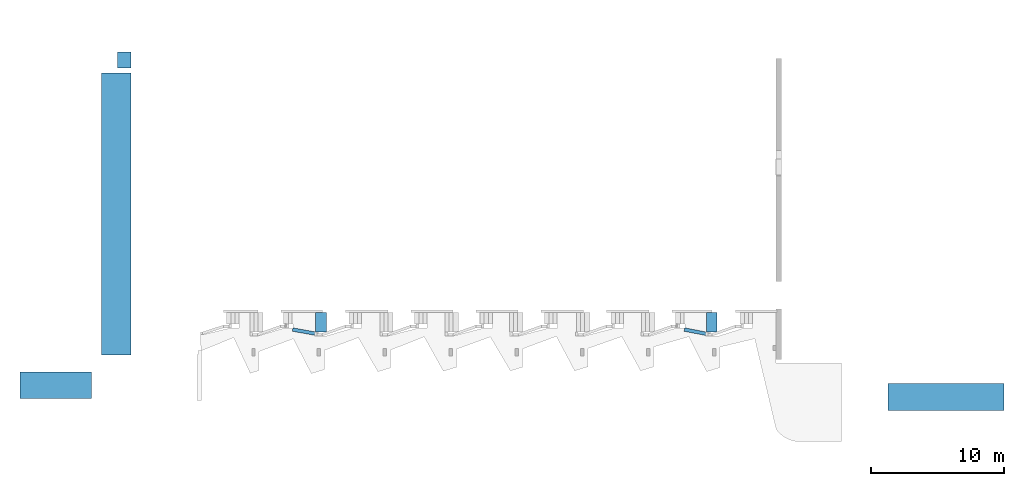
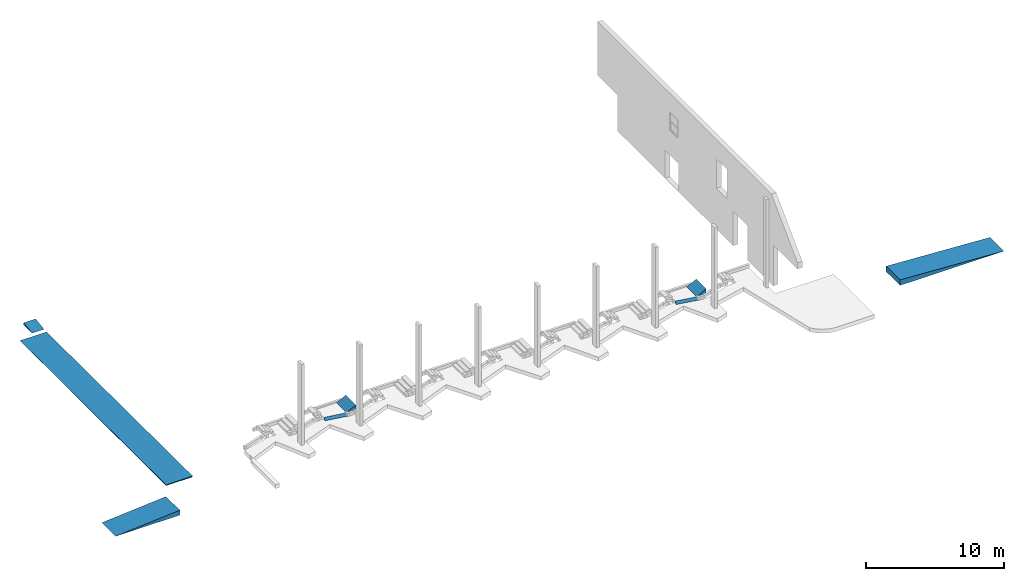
# One storey, part 3 of 8: 8 ramp flights, 8 elements without a shape of their own.
"""IFC4 building model written with IfcOpenShell, lengths in metres."""

from ifc_helpers import new_model, entity, si_unit, converted_unit, derived_unit, direction, frame, origin, place, context, subcontext, project, spatial, indexed_curve, outline, extrude, material, element, aggregate, save


model = new_model("IFC4")

# Units and contexts
model_context = context("Model", 3, precision=1e-05, world=origin(), true_north=direction((6.123031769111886e-17, 1.0)))
body_context = subcontext(model_context, "Body", "Model", "MODEL_VIEW")
ifc_project = project(units=[si_unit("LENGTHUNIT", "METRE"), si_unit("AREAUNIT", "SQUARE_METRE"), si_unit("VOLUMEUNIT", "CUBIC_METRE"), converted_unit("PLANEANGLEUNIT", "DEGREE", entity("IfcRatioMeasure", 0.017453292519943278), si_unit("PLANEANGLEUNIT", "RADIAN"), dimensions=[0, 0, 0, 0, 0, 0, 0]), si_unit("MASSUNIT", "GRAM", prefix="KILO"), derived_unit("MASSDENSITYUNIT", [(si_unit("MASSUNIT", "GRAM", prefix="KILO"), 1), (si_unit("LENGTHUNIT", "METRE"), -3)]), derived_unit("MOMENTOFINERTIAUNIT", [(si_unit("LENGTHUNIT", "METRE"), 4)]), si_unit("TIMEUNIT", "SECOND"), si_unit("FREQUENCYUNIT", "HERTZ"), si_unit("THERMODYNAMICTEMPERATUREUNIT", "DEGREE_CELSIUS"), derived_unit("THERMALTRANSMITTANCEUNIT", [(si_unit("MASSUNIT", "GRAM", prefix="KILO"), 1), (si_unit("THERMODYNAMICTEMPERATUREUNIT", "KELVIN"), -1), (si_unit("TIMEUNIT", "SECOND"), -3)]), derived_unit("VOLUMETRICFLOWRATEUNIT", [(si_unit("LENGTHUNIT", "METRE"), 3), (si_unit("TIMEUNIT", "SECOND"), -1)]), derived_unit("MASSFLOWRATEUNIT", [(si_unit("MASSUNIT", "GRAM", prefix="KILO"), 1), (si_unit("TIMEUNIT", "SECOND"), -1)]), derived_unit("ROTATIONALFREQUENCYUNIT", [(si_unit("TIMEUNIT", "SECOND"), -1)]), si_unit("ELECTRICCURRENTUNIT", "AMPERE"), si_unit("ELECTRICVOLTAGEUNIT", "VOLT"), si_unit("POWERUNIT", "WATT"), si_unit("FORCEUNIT", "NEWTON", prefix="KILO"), si_unit("ILLUMINANCEUNIT", "LUX"), si_unit("LUMINOUSFLUXUNIT", "LUMEN"), si_unit("LUMINOUSINTENSITYUNIT", "CANDELA"), derived_unit("USERDEFINED", [(si_unit("MASSUNIT", "GRAM", prefix="KILO"), -1), (si_unit("LENGTHUNIT", "METRE"), -2), (si_unit("TIMEUNIT", "SECOND"), 3), (si_unit("LUMINOUSFLUXUNIT", "LUMEN"), 1)]), derived_unit("SOUNDPOWERUNIT", [(si_unit("MASSUNIT", "GRAM", prefix="KILO"), 1), (si_unit("LENGTHUNIT", "METRE"), 2), (si_unit("TIMEUNIT", "SECOND"), -3)]), derived_unit("SOUNDPRESSUREUNIT", [(si_unit("MASSUNIT", "GRAM", prefix="KILO"), 1), (si_unit("LENGTHUNIT", "METRE"), -1), (si_unit("TIMEUNIT", "SECOND"), -2)]), derived_unit("LINEARVELOCITYUNIT", [(si_unit("LENGTHUNIT", "METRE"), 1), (si_unit("TIMEUNIT", "SECOND"), -1)]), si_unit("PRESSUREUNIT", "PASCAL"), derived_unit("USERDEFINED", [(si_unit("LENGTHUNIT", "METRE"), -2), (si_unit("MASSUNIT", "GRAM", prefix="KILO"), 1), (si_unit("TIMEUNIT", "SECOND"), -2)]), derived_unit("LINEARFORCEUNIT", [(si_unit("MASSUNIT", "GRAM", prefix="KILO"), 1), (si_unit("LENGTHUNIT", "METRE"), 1), (si_unit("TIMEUNIT", "SECOND"), -2), (si_unit("LENGTHUNIT", "METRE"), -1)]), derived_unit("PLANARFORCEUNIT", [(si_unit("MASSUNIT", "GRAM", prefix="KILO"), 1), (si_unit("LENGTHUNIT", "METRE"), 1), (si_unit("TIMEUNIT", "SECOND"), -2), (si_unit("LENGTHUNIT", "METRE"), -2)])], contexts=[model_context])

# Site, building, storey
site_placement = place(None, origin())
site = spatial("IfcSite", under=ifc_project, at=site_placement, Name="Superficie", CompositionType="ELEMENT")
building_placement = place(site_placement, origin())
building = spatial("IfcBuilding", under=site, at=building_placement, CompositionType="ELEMENT")
storey_placement = place(building_placement, frame((0.0, 0.0, -0.5599999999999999)))
storey = spatial("IfcBuildingStorey", under=building, at=storey_placement, Name="Nivel -1", CompositionType="ELEMENT", Elevation=-0.5599999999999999)

# Ramp, ramp flight
ramp_1_placement = place(storey_placement, origin())
ramp_1 = element("IfcRamp", 1, at=ramp_1_placement, inside=storey, PredefinedType="NOTDEFINED")
ifc_material = material(Name="Asfalto, betún", Category="Genérico")
ramp_flight_1_placement = place(ramp_1_placement, origin())
ramp_flight_1 = element("IfcRampFlight", 2, at=ramp_flight_1_placement, material=ifc_material, Name="Rampa:Coches 20%:1", ObjectType="Rampa:Coches 20%", PredefinedType="NOTDEFINED", context=body_context, shape_type="SweptSolid", body=[
    extrude(outline(indexed_curve([(-0.26666666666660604, -0.2666666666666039), (0.13333333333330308, -0.2666666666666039), (0.13333333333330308, 0.5333333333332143), (-0.26666666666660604, -0.2666666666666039)], self_intersect=False)), frame((-13.379867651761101, -7.894155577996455, 0.27333333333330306), z_axis=(0.0, 1.0, 0.0), x_axis=(0.0, 0.0, -1.0)), (0.0, 0.0, 1.0), 1.4499999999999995),
])
aggregate(ramp_1, [ramp_flight_1])

ramp_2_placement = place(storey_placement, origin())
ramp_2 = element("IfcRamp", 3, at=ramp_2_placement, inside=storey, PredefinedType="NOTDEFINED")
ramp_flight_2_placement = place(ramp_2_placement, origin())
ramp_flight_2 = element("IfcRampFlight", 4, at=ramp_flight_2_placement, material=ifc_material, Name="Rampa:1.73 20% 2:1", ObjectType="Rampa:1.73 20% 2", PredefinedType="NOTDEFINED", context=body_context, shape_type="SweptSolid", body=[
    extrude(outline(indexed_curve([(-0.17332991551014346, -0.04561313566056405), (0.08666495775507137, -0.04561313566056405), (0.08666495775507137, 0.09122627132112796), (-0.17332991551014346, -0.04561313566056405)], self_intersect=False)), frame((-15.636803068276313, -7.669741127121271, 0.04561313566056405), z_axis=(0.9839607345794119, -0.17838518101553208, 0.0), x_axis=(0.17838518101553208, 0.9839607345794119, 0.0)), (0.0, 0.0, 1.0), 1.7376000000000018),
])
aggregate(ramp_2, [ramp_flight_2])

ramp_3_placement = place(storey_placement, origin())
ramp_3 = element("IfcRamp", 5, at=ramp_3_placement, inside=storey, PredefinedType="NOTDEFINED")
ramp_flight_3_placement = place(ramp_3_placement, origin())
ramp_flight_3 = element("IfcRampFlight", 6, at=ramp_flight_3_placement, material=ifc_material, Name="Rampa:Coches 20%:1", ObjectType="Rampa:Coches 20%", PredefinedType="NOTDEFINED", context=body_context, shape_type="SweptSolid", body=[
    extrude(outline(indexed_curve([(-0.26666666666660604, -0.26666666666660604), (0.13333333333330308, -0.26666666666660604), (0.13333333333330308, 0.5333333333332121), (-0.26666666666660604, -0.26666666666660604)], self_intersect=False)), frame((15.899593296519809, -7.894140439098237, 0.27333333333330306), z_axis=(0.0, 1.0, 0.0), x_axis=(0.0, 0.0, -1.0)), (0.0, 0.0, 1.0), 1.4499999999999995),
])
aggregate(ramp_3, [ramp_flight_3])

ramp_4_placement = place(storey_placement, origin())
ramp_4 = element("IfcRamp", 7, at=ramp_4_placement, inside=storey, PredefinedType="NOTDEFINED")
ramp_flight_4_placement = place(ramp_4_placement, origin())
ramp_flight_4 = element("IfcRampFlight", 8, at=ramp_flight_4_placement, material=ifc_material, Name="Rampa:1.73 20% 2:1", ObjectType="Rampa:1.73 20% 2", PredefinedType="NOTDEFINED", context=body_context, shape_type="SweptSolid", body=[
    extrude(outline(indexed_curve([(-0.17333333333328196, -0.045614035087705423), (0.08666666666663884, -0.045614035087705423), (0.08666666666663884, 0.09122807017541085), (-0.17333333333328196, -0.045614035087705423)], self_intersect=False)), frame((13.728749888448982, -7.6691202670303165, 0.045614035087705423), z_axis=(0.9810437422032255, -0.1937864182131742, 0.0), x_axis=(0.1937864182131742, 0.9810437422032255, 0.0)), (0.0, 0.0, 1.0), 1.6516000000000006),
])
aggregate(ramp_4, [ramp_flight_4])

ramp_5_placement = place(storey_placement, origin())
ramp_5 = element("IfcRamp", 9, at=ramp_5_placement, inside=storey, PredefinedType="NOTDEFINED")
ramp_flight_5_placement = place(ramp_5_placement, origin())
ramp_flight_5 = element("IfcRampFlight", 10, at=ramp_flight_5_placement, material=ifc_material, Name="Rampa:Coches 20%:1", ObjectType="Rampa:Coches 20%", PredefinedType="NOTDEFINED", context=body_context, shape_type="SweptSolid", body=[
    extrude(outline(indexed_curve([(-0.2866666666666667, -1.782953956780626), (0.14333333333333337, -1.782953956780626), (0.14333333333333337, 3.565907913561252), (-0.2866666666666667, -1.782953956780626)], self_intersect=False)), frame((-32.508114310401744, -12.894170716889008, 0.15333333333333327), z_axis=(0.0, 1.0, 0.0), x_axis=(0.0, 0.0, -1.0)), (0.0, 0.0, 1.0), 2.000000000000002),
])
aggregate(ramp_5, [ramp_flight_5])

ramp_6_placement = place(storey_placement, origin())
ramp_6 = element("IfcRamp", 11, at=ramp_6_placement, inside=storey, PredefinedType="NOTDEFINED")
ramp_flight_6_placement = place(ramp_6_placement, origin())
ramp_flight_6 = element("IfcRampFlight", 12, at=ramp_flight_6_placement, material=ifc_material, Name="Rampa:Coches 20%:1", ObjectType="Rampa:Coches 20%", PredefinedType="NOTDEFINED", context=body_context, shape_type="SweptSolid", body=[
    extrude(outline(indexed_curve([(-0.8, -0.06666666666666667), (0.4, -0.06666666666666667), (0.4, 0.13333333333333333), (-0.8, -0.06666666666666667)], self_intersect=False)), frame((-28.763200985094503, 12.695829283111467, 0.4266666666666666), z_axis=(1.0, 0.0, 0.0), x_axis=(0.0, 1.0, 0.0)), (0.0, 0.0, 1.0), 0.9999999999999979),
])
aggregate(ramp_6, [ramp_flight_6])

ramp_7_placement = place(storey_placement, origin())
ramp_7 = element("IfcRamp", 13, at=ramp_7_placement, inside=storey, PredefinedType="NOTDEFINED")
ramp_flight_7_placement = place(ramp_7_placement, origin())
ramp_flight_7 = element("IfcRampFlight", 14, at=ramp_flight_7_placement, material=ifc_material, Name="Rampa:Coches 20%:1", ObjectType="Rampa:Coches 20%", PredefinedType="NOTDEFINED", context=body_context, shape_type="SweptSolid", body=[
    extrude(outline(indexed_curve([(-0.053333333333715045, -7.049826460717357), (0.026666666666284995, -7.049826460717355), (0.0266666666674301, 14.099652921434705), (-0.053333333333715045, -7.049826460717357)], self_intersect=False)), frame((-29.983200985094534, -2.5743442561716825, 0.3866666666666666), z_axis=(1.0, 0.0, 0.0), x_axis=(0.0, 0.0, -1.0)), (0.0, 0.0, 1.0), 2.219999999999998),
])
aggregate(ramp_7, [ramp_flight_7])

ramp_8_placement = place(storey_placement, origin())
ramp_8 = element("IfcRamp", 15, at=ramp_8_placement, inside=storey, PredefinedType="NOTDEFINED")
ramp_flight_8_placement = place(ramp_8_placement, origin())
ramp_flight_8 = element("IfcRampFlight", 16, at=ramp_flight_8_placement, material=ifc_material, Name="Rampa:Coches 20%:1", ObjectType="Rampa:Coches 20%", PredefinedType="NOTDEFINED", context=body_context, shape_type="SweptSolid", body=[
    extrude(outline(indexed_curve([(-5.793333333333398, -0.16360000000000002), (2.8966666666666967, -0.16360000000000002), (2.8966666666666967, 0.32719999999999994), (-5.793333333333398, -0.16360000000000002)], self_intersect=False)), frame((31.87346568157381, -13.76417080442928, 0.09359999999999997), z_axis=(0.0, 1.0, 0.0), x_axis=(-1.0, 0.0, 0.0)), (0.0, 0.0, 1.0), 2.000000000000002),
])
aggregate(ramp_8, [ramp_flight_8])

save(model, "model.ifc")
